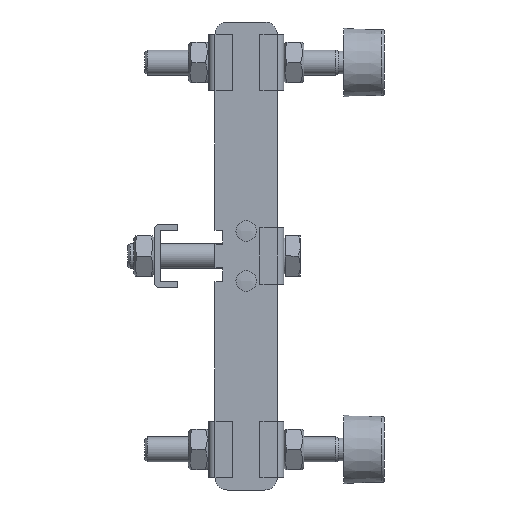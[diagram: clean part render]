
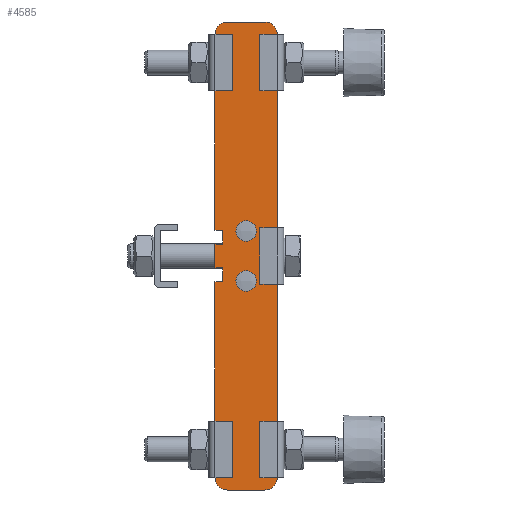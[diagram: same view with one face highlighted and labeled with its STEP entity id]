
A CAD part, left-side view. The second image highlights one B-rep face of the part: STEP entity #4585.
In plain terms, the highlighted planar face has unit normal (-1, 0, 0).
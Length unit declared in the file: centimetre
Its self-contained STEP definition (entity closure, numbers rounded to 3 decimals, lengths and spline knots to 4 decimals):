
#202=LINE($,#6821,#540);
#203=LINE($,#6823,#541);
#204=LINE($,#6825,#542);
#205=LINE($,#6827,#543);
#206=LINE($,#6829,#544);
#207=LINE($,#6831,#545);
#208=LINE($,#6835,#546);
#209=LINE($,#6839,#547);
#210=LINE($,#6843,#548);
#211=LINE($,#6847,#549);
#212=LINE($,#6849,#550);
#213=LINE($,#6850,#551);
#540=VECTOR($,#5465,1.);
#541=VECTOR($,#5466,1.);
#542=VECTOR($,#5467,1.);
#543=VECTOR($,#5468,1.);
#544=VECTOR($,#5469,1.);
#545=VECTOR($,#5470,1.);
#546=VECTOR($,#5473,1.);
#547=VECTOR($,#5476,1.);
#548=VECTOR($,#5479,1.);
#549=VECTOR($,#5482,1.);
#550=VECTOR($,#5483,1.);
#551=VECTOR($,#5484,1.);
#878=PLANE($,#4946);
#1062=FACE_BOUND($,#1492,.T.);
#1063=FACE_BOUND($,#1493,.T.);
#1064=FACE_BOUND($,#1494,.T.);
#1492=EDGE_LOOP($,(#3221));
#1493=EDGE_LOOP($,(#3222));
#1494=EDGE_LOOP($,(#3223,#3224,#3225,#3226,#3227,#3228,#3229,#3230,#3231,
#3232,#3233,#3234,#3235,#3236,#3237,#3238));
#1916=CIRCLE($,#4941,0.3);
#1918=CIRCLE($,#4944,0.3);
#1920=CIRCLE($,#4947,0.4);
#1921=CIRCLE($,#4948,0.4);
#1922=CIRCLE($,#4949,0.4);
#1923=CIRCLE($,#4950,0.4);
#2109=VERTEX_POINT($,#6809);
#2111=VERTEX_POINT($,#6814);
#2113=VERTEX_POINT($,#6819);
#2114=VERTEX_POINT($,#6820);
#2115=VERTEX_POINT($,#6822);
#2116=VERTEX_POINT($,#6824);
#2117=VERTEX_POINT($,#6826);
#2118=VERTEX_POINT($,#6828);
#2119=VERTEX_POINT($,#6830);
#2120=VERTEX_POINT($,#6832);
#2121=VERTEX_POINT($,#6834);
#2122=VERTEX_POINT($,#6836);
#2123=VERTEX_POINT($,#6838);
#2124=VERTEX_POINT($,#6840);
#2125=VERTEX_POINT($,#6842);
#2126=VERTEX_POINT($,#6844);
#2127=VERTEX_POINT($,#6846);
#2128=VERTEX_POINT($,#6848);
#2566=EDGE_CURVE($,#2109,#2109,#1916,.T.);
#2568=EDGE_CURVE($,#2111,#2111,#1918,.T.);
#2570=EDGE_CURVE($,#2113,#2114,#202,.T.);
#2571=EDGE_CURVE($,#2115,#2113,#203,.T.);
#2572=EDGE_CURVE($,#2116,#2115,#204,.T.);
#2573=EDGE_CURVE($,#2117,#2116,#205,.T.);
#2574=EDGE_CURVE($,#2118,#2117,#206,.T.);
#2575=EDGE_CURVE($,#2119,#2118,#207,.T.);
#2576=EDGE_CURVE($,#2120,#2119,#1920,.T.);
#2577=EDGE_CURVE($,#2121,#2120,#208,.T.);
#2578=EDGE_CURVE($,#2122,#2121,#1921,.T.);
#2579=EDGE_CURVE($,#2123,#2122,#209,.T.);
#2580=EDGE_CURVE($,#2124,#2123,#1922,.T.);
#2581=EDGE_CURVE($,#2125,#2124,#210,.T.);
#2582=EDGE_CURVE($,#2126,#2125,#1923,.T.);
#2583=EDGE_CURVE($,#2127,#2126,#211,.T.);
#2584=EDGE_CURVE($,#2128,#2127,#212,.T.);
#2585=EDGE_CURVE($,#2114,#2128,#213,.T.);
#3221=ORIENTED_EDGE($,*,*,#2566,.T.);
#3222=ORIENTED_EDGE($,*,*,#2568,.T.);
#3223=ORIENTED_EDGE($,*,*,#2570,.F.);
#3224=ORIENTED_EDGE($,*,*,#2571,.F.);
#3225=ORIENTED_EDGE($,*,*,#2572,.F.);
#3226=ORIENTED_EDGE($,*,*,#2573,.F.);
#3227=ORIENTED_EDGE($,*,*,#2574,.F.);
#3228=ORIENTED_EDGE($,*,*,#2575,.F.);
#3229=ORIENTED_EDGE($,*,*,#2576,.F.);
#3230=ORIENTED_EDGE($,*,*,#2577,.F.);
#3231=ORIENTED_EDGE($,*,*,#2578,.F.);
#3232=ORIENTED_EDGE($,*,*,#2579,.F.);
#3233=ORIENTED_EDGE($,*,*,#2580,.F.);
#3234=ORIENTED_EDGE($,*,*,#2581,.F.);
#3235=ORIENTED_EDGE($,*,*,#2582,.F.);
#3236=ORIENTED_EDGE($,*,*,#2583,.F.);
#3237=ORIENTED_EDGE($,*,*,#2584,.F.);
#3238=ORIENTED_EDGE($,*,*,#2585,.F.);
#4585=ADVANCED_FACE($,(#1062,#1063,#1064),#878,.F.);
#4941=AXIS2_PLACEMENT_3D($,#6810,#5453,#5454);
#4944=AXIS2_PLACEMENT_3D($,#6815,#5459,#5460);
#4946=AXIS2_PLACEMENT_3D($,#6818,#5463,#5464);
#4947=AXIS2_PLACEMENT_3D($,#6833,#5471,#5472);
#4948=AXIS2_PLACEMENT_3D($,#6837,#5474,#5475);
#4949=AXIS2_PLACEMENT_3D($,#6841,#5477,#5478);
#4950=AXIS2_PLACEMENT_3D($,#6845,#5480,#5481);
#5453=DIRECTION('center_axis',(1.,0.,0.));
#5454=DIRECTION('ref_axis',(0.,-1.,0.));
#5459=DIRECTION('center_axis',(1.,0.,0.));
#5460=DIRECTION('ref_axis',(0.,-1.,0.));
#5463=DIRECTION('center_axis',(1.,0.,0.));
#5464=DIRECTION('ref_axis',(0.,0.,-1.));
#5465=DIRECTION($,(0.,-1.,0.));
#5466=DIRECTION($,(0.,0.,1.));
#5467=DIRECTION($,(0.,1.,0.));
#5468=DIRECTION($,(0.,0.,1.));
#5469=DIRECTION($,(0.,-1.,0.));
#5470=DIRECTION($,(0.,0.,1.));
#5471=DIRECTION('center_axis',(1.,0.,0.));
#5472=DIRECTION('ref_axis',(0.,0.,-1.));
#5473=DIRECTION($,(0.,1.,0.));
#5474=DIRECTION('center_axis',(1.,0.,0.));
#5475=DIRECTION('ref_axis',(0.,-1.,0.));
#5476=DIRECTION($,(0.,0.,-1.));
#5477=DIRECTION('center_axis',(1.,0.,0.));
#5478=DIRECTION('ref_axis',(0.,0.,1.));
#5479=DIRECTION($,(0.,-1.,0.));
#5480=DIRECTION('center_axis',(1.,0.,0.));
#5481=DIRECTION('ref_axis',(0.,1.,0.));
#5482=DIRECTION($,(0.,0.,1.));
#5483=DIRECTION($,(0.,1.,0.));
#5484=DIRECTION($,(0.,0.,1.));
#6809=CARTESIAN_POINT('',(-0.2,0.3,-0.8));
#6810=CARTESIAN_POINT('Origin',(-0.2,0.,-0.8));
#6814=CARTESIAN_POINT('',(-0.2,0.3,0.8));
#6815=CARTESIAN_POINT('Origin',(-0.2,0.,0.8));
#6818=CARTESIAN_POINT('Origin',(-0.2,0.0191,0.));
#6819=CARTESIAN_POINT('',(-0.2,1.,0.38));
#6820=CARTESIAN_POINT('',(-0.2,0.75,0.38));
#6821=CARTESIAN_POINT($,(-0.2,1.,0.38));
#6822=CARTESIAN_POINT('',(-0.2,1.,-0.38));
#6823=CARTESIAN_POINT($,(-0.2,1.,-0.38));
#6824=CARTESIAN_POINT('',(-0.2,0.75,-0.38));
#6825=CARTESIAN_POINT($,(-0.2,0.75,-0.38));
#6826=CARTESIAN_POINT('',(-0.2,0.75,-0.82));
#6827=CARTESIAN_POINT($,(-0.2,0.75,-0.82));
#6828=CARTESIAN_POINT('',(-0.2,1.,-0.82));
#6829=CARTESIAN_POINT($,(-0.2,1.,-0.82));
#6830=CARTESIAN_POINT('',(-0.2,1.,-7.1));
#6831=CARTESIAN_POINT($,(-0.2,1.,-7.1));
#6832=CARTESIAN_POINT('',(-0.2,0.6,-7.5));
#6833=CARTESIAN_POINT('Origin',(-0.2,0.6,-7.1));
#6834=CARTESIAN_POINT('',(-0.2,-0.6,-7.5));
#6835=CARTESIAN_POINT($,(-0.2,-0.6,-7.5));
#6836=CARTESIAN_POINT('',(-0.2,-1.,-7.1));
#6837=CARTESIAN_POINT('Origin',(-0.2,-0.6,-7.1));
#6838=CARTESIAN_POINT('',(-0.2,-1.,7.1));
#6839=CARTESIAN_POINT($,(-0.2,-1.,7.1));
#6840=CARTESIAN_POINT('',(-0.2,-0.6,7.5));
#6841=CARTESIAN_POINT('Origin',(-0.2,-0.6,7.1));
#6842=CARTESIAN_POINT('',(-0.2,0.6,7.5));
#6843=CARTESIAN_POINT($,(-0.2,0.6,7.5));
#6844=CARTESIAN_POINT('',(-0.2,1.,7.1));
#6845=CARTESIAN_POINT('Origin',(-0.2,0.6,7.1));
#6846=CARTESIAN_POINT('',(-0.2,1.,0.82));
#6847=CARTESIAN_POINT($,(-0.2,1.,0.82));
#6848=CARTESIAN_POINT('',(-0.2,0.75,0.82));
#6849=CARTESIAN_POINT($,(-0.2,0.75,0.82));
#6850=CARTESIAN_POINT($,(-0.2,0.75,0.38));
